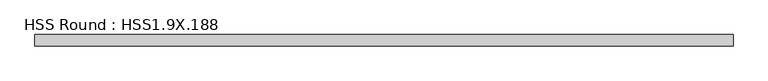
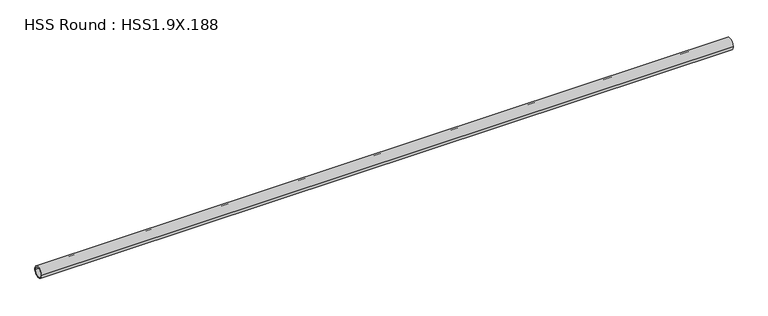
"""IFC4 building model written with IfcOpenShell, lengths in millimetres: member geometry, HSS Round : HSS1.9X.188."""

from ifc_helpers import new_model, si_unit, point, frame, origin, origin_2d, place, context, project, spatial, circle_curve, trimmed, segment, composite_curve, outline, extrude, source, transform, mapped, element, save


def hss_round_hss1_9x_188_14ffc6d0(model_context):
    return source(origin(), model_context, "Body", "SweptSolid", [
        extrude(outline(composite_curve([segment(trimmed(circle_curve(origin_2d(), 24.13), [point((-24.13, 0.0))], [point((24.13, 0.0))], False, "CARTESIAN"), True, "CONTINUOUS"), segment(trimmed(circle_curve(origin_2d(), 24.13), [point((24.13, 0.0))], [point((-24.13, 0.0))], False, "CARTESIAN"), True, "CONTINUOUS")], self_intersect=False), holes=[composite_curve([segment(trimmed(circle_curve(origin_2d(), 19.3548), [point((19.3548, 0.0))], [point((-19.3548, 0.0))], True, "CARTESIAN"), True, "CONTINUOUS"), segment(trimmed(circle_curve(origin_2d(), 19.3548), [point((-19.3548, 0.0))], [point((19.3548, 0.0))], True, "CARTESIAN"), True, "CONTINUOUS")], self_intersect=False)]), frame((-1459.1920494, 0.0, 0.0), z_axis=(1.0, 0.0, 0.0), x_axis=(0.0, 1.0, 0.0)), (0.0, 0.0, 1.0), 2922.5568043),
    ])


if __name__ == "__main__":
    model = new_model("IFC4")
    model_context = context("Model", 3, world=origin())
    ifc_project = project(units=[si_unit("LENGTHUNIT", "METRE", prefix="MILLI")], contexts=[model_context])
    site = spatial("IfcSite", under=ifc_project)
    building = spatial("IfcBuilding", under=site)
    placement = place(None, origin())
    hss_round_hss1_9x_188_shape = hss_round_hss1_9x_188_14ffc6d0(model_context)
    element("IfcMember", 1, ObjectType="HSS Round : HSS1.9X.188", at=placement, inside=building, context=model_context, shape_type="MappedRepresentation", body=[
        mapped(hss_round_hss1_9x_188_shape, transform((0.0, 0.0, 0.0), x_axis=(1.0, 0.0, 0.0), y_axis=(0.0, 1.0, 0.0), z_axis=(0.0, 0.0, 1.0))),
    ])
    save(model, "model.ifc")
